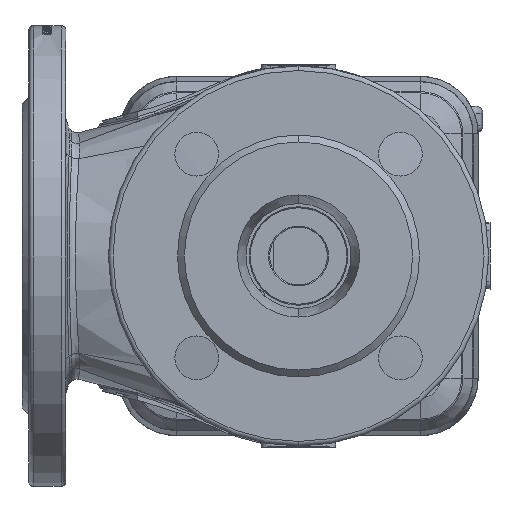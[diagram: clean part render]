
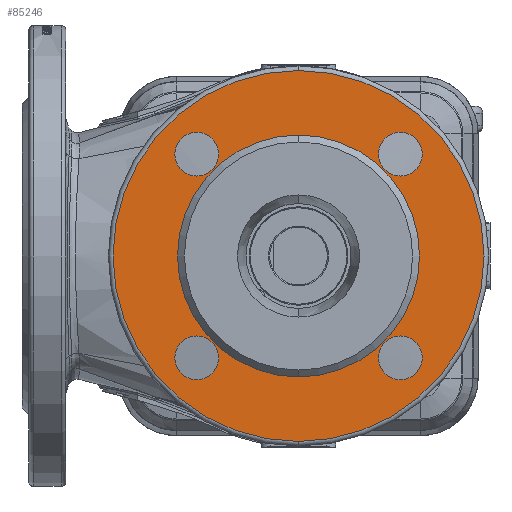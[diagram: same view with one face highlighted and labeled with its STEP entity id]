
A CAD part, front view. The second image highlights one B-rep face of the part: STEP entity #85246.
In plain terms, the highlighted planar face has unit normal (0, -1, 0).
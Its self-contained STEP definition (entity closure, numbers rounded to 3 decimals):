
#1106 = EDGE_CURVE ( 'NONE', #37682, #164263, #42707, .T. ) ;
#1401 = CARTESIAN_POINT ( 'NONE',  ( 0., -147., -52.5 ) ) ;
#5730 = CARTESIAN_POINT ( 'NONE',  ( -44.194, -147., 44.194 ) ) ;
#5996 = ORIENTED_EDGE ( 'NONE', *, *, #104847, .F. ) ;
#9075 = EDGE_LOOP ( 'NONE', ( #147120, #11025 ) ) ;
#9935 = AXIS2_PLACEMENT_3D ( 'NONE', #111743, #176248, #51341 ) ;
#11025 = ORIENTED_EDGE ( 'NONE', *, *, #66233, .F. ) ;
#17986 = EDGE_CURVE ( 'NONE', #193263, #137773, #71209, .T. ) ;
#19830 = ORIENTED_EDGE ( 'NONE', *, *, #114603, .T. ) ;
#21186 = ORIENTED_EDGE ( 'NONE', *, *, #84058, .F. ) ;
#21380 = DIRECTION ( 'NONE',  ( 0., 0., -1. ) ) ;
#30494 = CARTESIAN_POINT ( 'NONE',  ( 44.194, -147., 44.194 ) ) ;
#30836 = ORIENTED_EDGE ( 'NONE', *, *, #51969, .F. ) ;
#32269 = ORIENTED_EDGE ( 'NONE', *, *, #135076, .F. ) ;
#32461 = VERTEX_POINT ( 'NONE', #1401 ) ;
#34562 = DIRECTION ( 'NONE',  ( 0., 1., 0. ) ) ;
#34939 = DIRECTION ( 'NONE',  ( 0., 0., 1. ) ) ;
#35703 = PLANE ( 'NONE',  #53387 ) ;
#36221 = CIRCLE ( 'NONE', #73761, 80.5 ) ;
#36329 = DIRECTION ( 'NONE',  ( 0., -1., 0. ) ) ;
#37682 = VERTEX_POINT ( 'NONE', #121448 ) ;
#42707 = CIRCLE ( 'NONE', #98031, 80.5 ) ;
#43379 = AXIS2_PLACEMENT_3D ( 'NONE', #133600, #118035, #134273 ) ;
#44931 = DIRECTION ( 'NONE',  ( 0., 1., 0. ) ) ;
#46432 = EDGE_LOOP ( 'NONE', ( #54576, #21186 ) ) ;
#49816 = CARTESIAN_POINT ( 'NONE',  ( -44.194, -147., -44.194 ) ) ;
#50167 = DIRECTION ( 'NONE',  ( 0., 0., 1. ) ) ;
#51341 = DIRECTION ( 'NONE',  ( 0., 0., -1. ) ) ;
#51969 = EDGE_CURVE ( 'NONE', #137773, #193263, #123981, .T. ) ;
#53387 = AXIS2_PLACEMENT_3D ( 'NONE', #189695, #98065, #113691 ) ;
#54576 = ORIENTED_EDGE ( 'NONE', *, *, #192314, .F. ) ;
#56500 = AXIS2_PLACEMENT_3D ( 'NONE', #160457, #36329, #176126 ) ;
#58365 = CARTESIAN_POINT ( 'NONE',  ( 44.194, -147., 53.694 ) ) ;
#61191 = AXIS2_PLACEMENT_3D ( 'NONE', #30494, #96172, #110455 ) ;
#64101 = VERTEX_POINT ( 'NONE', #159020 ) ;
#65149 = FACE_BOUND ( 'NONE', #46432, .T. ) ;
#65179 = CIRCLE ( 'NONE', #87755, 9.5 ) ;
#65399 = DIRECTION ( 'NONE',  ( 0., 1., 0. ) ) ;
#65631 = VERTEX_POINT ( 'NONE', #58365 ) ;
#66233 = EDGE_CURVE ( 'NONE', #164263, #37682, #36221, .T. ) ;
#66771 = EDGE_LOOP ( 'NONE', ( #32269, #5996 ) ) ;
#66863 = DIRECTION ( 'NONE',  ( 0., 0., -1. ) ) ;
#67525 = ORIENTED_EDGE ( 'NONE', *, *, #140465, .F. ) ;
#68209 = DIRECTION ( 'NONE',  ( 0., -1., 0. ) ) ;
#70419 = AXIS2_PLACEMENT_3D ( 'NONE', #189253, #34562, #50167 ) ;
#71209 = CIRCLE ( 'NONE', #90773, 9.5 ) ;
#73761 = AXIS2_PLACEMENT_3D ( 'NONE', #129155, #65399, #34939 ) ;
#82759 = CIRCLE ( 'NONE', #56500, 9.5 ) ;
#83685 = DIRECTION ( 'NONE',  ( 0., 0., 1. ) ) ;
#84058 = EDGE_CURVE ( 'NONE', #102041, #135998, #123934, .T. ) ;
#85246 = ADVANCED_FACE ( 'NONE', ( #140350, #147807, #65149, #154971, #96735, #184241 ), #35703, .T. ) ;
#86155 = CARTESIAN_POINT ( 'NONE',  ( -44.194, -147., -53.694 ) ) ;
#86168 = VERTEX_POINT ( 'NONE', #127403 ) ;
#87755 = AXIS2_PLACEMENT_3D ( 'NONE', #129974, #68209, #66863 ) ;
#90773 = AXIS2_PLACEMENT_3D ( 'NONE', #132528, #195711, #197028 ) ;
#96172 = DIRECTION ( 'NONE',  ( 0., -1., 0. ) ) ;
#96446 = ORIENTED_EDGE ( 'NONE', *, *, #17986, .F. ) ;
#96735 = FACE_BOUND ( 'NONE', #156914, .T. ) ;
#98031 = AXIS2_PLACEMENT_3D ( 'NONE', #121590, #44931, #135194 ) ;
#98065 = DIRECTION ( 'NONE',  ( 0., -1., 0. ) ) ;
#102041 = VERTEX_POINT ( 'NONE', #86155 ) ;
#103718 = VERTEX_POINT ( 'NONE', #153882 ) ;
#104847 = EDGE_CURVE ( 'NONE', #103718, #193903, #111598, .T. ) ;
#109975 = CIRCLE ( 'NONE', #61191, 9.5 ) ;
#110455 = DIRECTION ( 'NONE',  ( 0., 0., -1. ) ) ;
#111598 = CIRCLE ( 'NONE', #43379, 9.5 ) ;
#111743 = CARTESIAN_POINT ( 'NONE',  ( 44.194, -147., -44.194 ) ) ;
#113691 = DIRECTION ( 'NONE',  ( 0., 0., -1. ) ) ;
#114603 = EDGE_CURVE ( 'NONE', #86168, #32461, #173488, .T. ) ;
#114909 = DIRECTION ( 'NONE',  ( 0., -1., 0. ) ) ;
#117128 = CARTESIAN_POINT ( 'NONE',  ( 44.194, -147., -34.694 ) ) ;
#117296 = EDGE_LOOP ( 'NONE', ( #30836, #96446 ) ) ;
#118035 = DIRECTION ( 'NONE',  ( 0., -1., 0. ) ) ;
#121448 = CARTESIAN_POINT ( 'NONE',  ( 0., -147., 80.5 ) ) ;
#121590 = CARTESIAN_POINT ( 'NONE',  ( 0., -147., 0. ) ) ;
#122838 = EDGE_CURVE ( 'NONE', #32461, #86168, #192436, .T. ) ;
#123934 = CIRCLE ( 'NONE', #162497, 9.5 ) ;
#123981 = CIRCLE ( 'NONE', #165061, 9.5 ) ;
#127403 = CARTESIAN_POINT ( 'NONE',  ( 0., -147., 52.5 ) ) ;
#129155 = CARTESIAN_POINT ( 'NONE',  ( 0., -147., 0. ) ) ;
#129974 = CARTESIAN_POINT ( 'NONE',  ( -44.194, -147., -44.194 ) ) ;
#132528 = CARTESIAN_POINT ( 'NONE',  ( -44.194, -147., 44.194 ) ) ;
#132828 = AXIS2_PLACEMENT_3D ( 'NONE', #160381, #176718, #83685 ) ;
#132938 = CARTESIAN_POINT ( 'NONE',  ( -44.194, -147., 34.694 ) ) ;
#133600 = CARTESIAN_POINT ( 'NONE',  ( 44.194, -147., -44.194 ) ) ;
#134273 = DIRECTION ( 'NONE',  ( 0., 0., -1. ) ) ;
#135076 = EDGE_CURVE ( 'NONE', #193903, #103718, #165514, .T. ) ;
#135194 = DIRECTION ( 'NONE',  ( 0., 0., 1. ) ) ;
#135998 = VERTEX_POINT ( 'NONE', #164859 ) ;
#137773 = VERTEX_POINT ( 'NONE', #199102 ) ;
#138218 = CARTESIAN_POINT ( 'NONE',  ( 0., -147., -80.5 ) ) ;
#140350 = FACE_BOUND ( 'NONE', #117296, .T. ) ;
#140465 = EDGE_CURVE ( 'NONE', #64101, #65631, #109975, .T. ) ;
#147120 = ORIENTED_EDGE ( 'NONE', *, *, #1106, .F. ) ;
#147807 = FACE_BOUND ( 'NONE', #66771, .T. ) ;
#148345 = ORIENTED_EDGE ( 'NONE', *, *, #122838, .T. ) ;
#148813 = EDGE_CURVE ( 'NONE', #65631, #64101, #82759, .T. ) ;
#153882 = CARTESIAN_POINT ( 'NONE',  ( 44.194, -147., -53.694 ) ) ;
#154971 = FACE_BOUND ( 'NONE', #198022, .T. ) ;
#156914 = EDGE_LOOP ( 'NONE', ( #19830, #148345 ) ) ;
#156956 = ORIENTED_EDGE ( 'NONE', *, *, #148813, .F. ) ;
#158369 = DIRECTION ( 'NONE',  ( 0., -1., 0. ) ) ;
#159020 = CARTESIAN_POINT ( 'NONE',  ( 44.194, -147., 34.694 ) ) ;
#160381 = CARTESIAN_POINT ( 'NONE',  ( 0., -147., 0. ) ) ;
#160457 = CARTESIAN_POINT ( 'NONE',  ( 44.194, -147., 44.194 ) ) ;
#162497 = AXIS2_PLACEMENT_3D ( 'NONE', #49816, #158369, #174026 ) ;
#164263 = VERTEX_POINT ( 'NONE', #138218 ) ;
#164859 = CARTESIAN_POINT ( 'NONE',  ( -44.194, -147., -34.694 ) ) ;
#165061 = AXIS2_PLACEMENT_3D ( 'NONE', #5730, #114909, #21380 ) ;
#165514 = CIRCLE ( 'NONE', #9935, 9.5 ) ;
#173488 = CIRCLE ( 'NONE', #132828, 52.5 ) ;
#174026 = DIRECTION ( 'NONE',  ( 0., 0., -1. ) ) ;
#176126 = DIRECTION ( 'NONE',  ( 0., 0., -1. ) ) ;
#176248 = DIRECTION ( 'NONE',  ( 0., -1., 0. ) ) ;
#176718 = DIRECTION ( 'NONE',  ( 0., 1., 0. ) ) ;
#184241 = FACE_OUTER_BOUND ( 'NONE', #9075, .T. ) ;
#189253 = CARTESIAN_POINT ( 'NONE',  ( 0., -147., 0. ) ) ;
#189695 = CARTESIAN_POINT ( 'NONE',  ( -52.5, -147., 0. ) ) ;
#192314 = EDGE_CURVE ( 'NONE', #135998, #102041, #65179, .T. ) ;
#192436 = CIRCLE ( 'NONE', #70419, 52.5 ) ;
#193263 = VERTEX_POINT ( 'NONE', #132938 ) ;
#193903 = VERTEX_POINT ( 'NONE', #117128 ) ;
#195711 = DIRECTION ( 'NONE',  ( 0., -1., 0. ) ) ;
#197028 = DIRECTION ( 'NONE',  ( 0., 0., -1. ) ) ;
#198022 = EDGE_LOOP ( 'NONE', ( #156956, #67525 ) ) ;
#199102 = CARTESIAN_POINT ( 'NONE',  ( -44.194, -147., 53.694 ) ) ;
